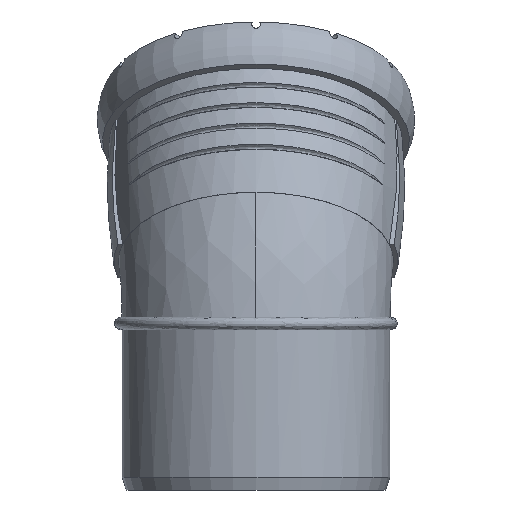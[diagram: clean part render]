
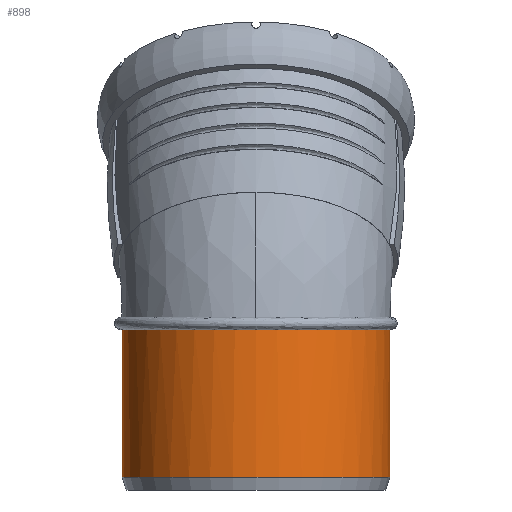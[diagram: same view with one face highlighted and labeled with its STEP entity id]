
A CAD part, left-side view. The second image highlights one B-rep face of the part: STEP entity #898.
In plain terms, the highlighted cylindrical face has radius 62.6 mm (diameter 125.2 mm), a full revolution.
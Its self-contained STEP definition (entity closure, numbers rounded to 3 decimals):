
#17=FACE_BOUND('',#190,.T.);
#44=CYLINDRICAL_SURFACE('',#970,62.6);
#86=CIRCLE('',#953,62.6);
#88=CIRCLE('',#960,62.6);
#89=CIRCLE('',#962,62.6);
#90=CIRCLE('',#963,62.6);
#94=CIRCLE('',#971,62.6);
#135=FACE_OUTER_BOUND('',#189,.T.);
#189=EDGE_LOOP('',(#609,#610,#611,#612));
#190=EDGE_LOOP('',(#613));
#346=VERTEX_POINT('',#1357);
#349=VERTEX_POINT('',#1385);
#354=VERTEX_POINT('',#1452);
#357=VERTEX_POINT('',#1523);
#359=VERTEX_POINT('',#1535);
#443=EDGE_CURVE('',#346,#349,#86,.T.);
#451=EDGE_CURVE('',#349,#354,#88,.T.);
#455=EDGE_CURVE('',#354,#357,#89,.T.);
#456=EDGE_CURVE('',#357,#346,#90,.T.);
#460=EDGE_CURVE('',#359,#359,#94,.T.);
#609=ORIENTED_EDGE('',*,*,#456,.T.);
#610=ORIENTED_EDGE('',*,*,#443,.T.);
#611=ORIENTED_EDGE('',*,*,#451,.T.);
#612=ORIENTED_EDGE('',*,*,#455,.T.);
#613=ORIENTED_EDGE('',*,*,#460,.F.);
#898=ADVANCED_FACE('',(#135,#17),#44,.T.);
#953=AXIS2_PLACEMENT_3D('',#1387,#1047,#1048);
#960=AXIS2_PLACEMENT_3D('',#1460,#1061,#1062);
#962=AXIS2_PLACEMENT_3D('',#1525,#1065,#1066);
#963=AXIS2_PLACEMENT_3D('',#1526,#1067,#1068);
#970=AXIS2_PLACEMENT_3D('',#1534,#1081,#1082);
#971=AXIS2_PLACEMENT_3D('',#1536,#1083,#1084);
#1047=DIRECTION('center_axis',(0.,0.,-1.));
#1048=DIRECTION('ref_axis',(1.,0.,0.));
#1061=DIRECTION('center_axis',(0.,0.,-1.));
#1062=DIRECTION('ref_axis',(1.,0.,0.));
#1065=DIRECTION('center_axis',(0.,0.,-1.));
#1066=DIRECTION('ref_axis',(1.,0.,0.));
#1067=DIRECTION('center_axis',(0.,0.,-1.));
#1068=DIRECTION('ref_axis',(1.,0.,0.));
#1081=DIRECTION('center_axis',(0.,0.,-1.));
#1082=DIRECTION('ref_axis',(0.,1.,0.));
#1083=DIRECTION('center_axis',(0.,0.,-1.));
#1084=DIRECTION('ref_axis',(1.,0.,0.));
#1357=CARTESIAN_POINT('',(-27.561,-56.206,74.9));
#1385=CARTESIAN_POINT('',(-62.6,0.,74.9));
#1387=CARTESIAN_POINT('Origin',(0.,0.,74.9));
#1452=CARTESIAN_POINT('',(-27.561,56.206,74.9));
#1460=CARTESIAN_POINT('Origin',(0.,0.,74.9));
#1523=CARTESIAN_POINT('',(0.,62.6,74.9));
#1525=CARTESIAN_POINT('Origin',(0.,0.,74.9));
#1526=CARTESIAN_POINT('Origin',(0.,0.,74.9));
#1534=CARTESIAN_POINT('Origin',(0.,0.,40.45));
#1535=CARTESIAN_POINT('',(0.,62.6,6.));
#1536=CARTESIAN_POINT('Origin',(0.,0.,6.));
